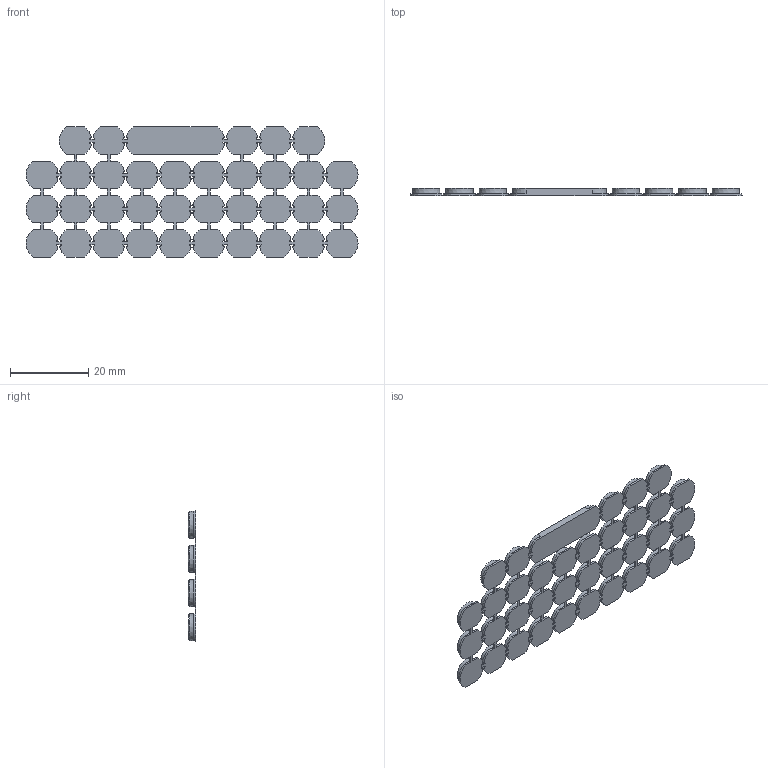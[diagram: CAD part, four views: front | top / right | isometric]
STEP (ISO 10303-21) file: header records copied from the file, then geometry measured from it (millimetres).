
FILE_DESCRIPTION(/* description */ (''),/* implementation_level */ '2;1');
FILE_NAME(/* name */ 'keysMeshed_BLANK.step',/* time_stamp */ '2026-09-09T17:14:04-07:00',/* author */ (''),/* organization */ (''),/* preprocessor_version */ 'ST-DEVELOPER v20.2',/* originating_system */ 'Autodesk Translation Framework v15.15.0.0',/* authorisation */ '');
FILE_SCHEMA (('AUTOMOTIVE_DESIGN { 1 0 10303 214 3 1 1 }'));
Length unit declared in the file: millimetre
Products named in the file (1): Keys_SPLIT
Bounding box: 84.98 x 1.97 x 33.31 mm (x, y, z)
Volume: 2998.8 mm3; surface area: 5379.8 mm2
Topology: 1 solids, 1 shells, 857 faces, 2553 edges, 1678 vertices
Faces by surface type: plane 382, cone 173, bspline 136, cylinder 129, sphere 37
Entity records: 38720 total; most frequent: CARTESIAN_POINT 16399, ORIENTED_EDGE 5106, DIRECTION 4160, EDGE_CURVE 2553, VERTEX_POINT 1678, AXIS2_PLACEMENT_3D 1409, LINE 1342, VECTOR 1342
